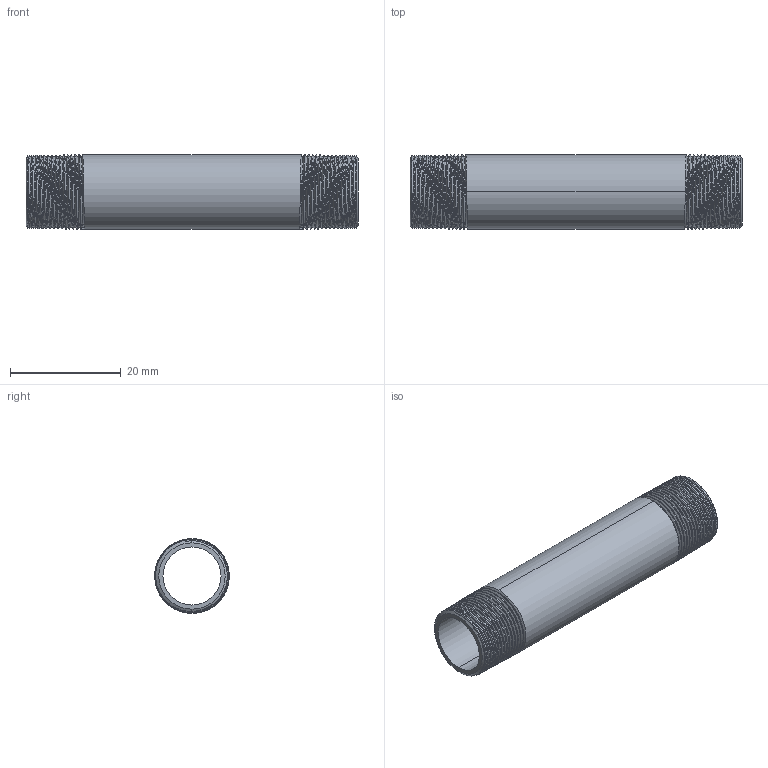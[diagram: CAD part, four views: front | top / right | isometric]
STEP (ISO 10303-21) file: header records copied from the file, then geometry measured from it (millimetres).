
FILE_DESCRIPTION (( 'STEP AP203' ), '1' );
FILE_NAME ('3D_R210_1-4x60_17185680.STEP', '2024-08-16T11:05:50', ( '' ), ( '' ), 'SwSTEP 2.0', 'SolidWorks 2024', '' );
FILE_SCHEMA (( 'CONFIG_CONTROL_DESIGN' ));
Length unit declared in the file: millimetre
Products named in the file (1): 3D_R210_1-4x60_17185680
Bounding box: 60 x 13.49 x 13.5 mm (x, y, z)
Volume: 3198.5 mm3; surface area: 4965 mm2
Topology: 1 solids, 1 shells, 76 faces, 216 edges, 142 vertices
Faces by surface type: cone 62, bspline 6, cylinder 4, plane 4
Entity records: 10859 total; most frequent: CARTESIAN_POINT 9099, ORIENTED_EDGE 432, DIRECTION 230, EDGE_CURVE 216, VERTEX_POINT 142, B_SPLINE_CURVE_WITH_KNOTS 130, AXIS2_PLACEMENT_3D 81, EDGE_LOOP 78
